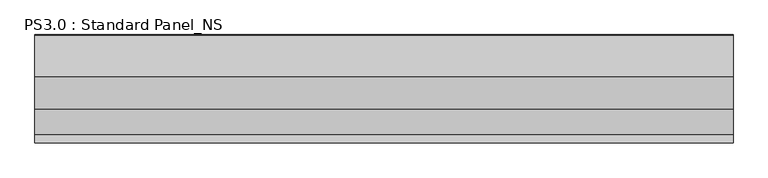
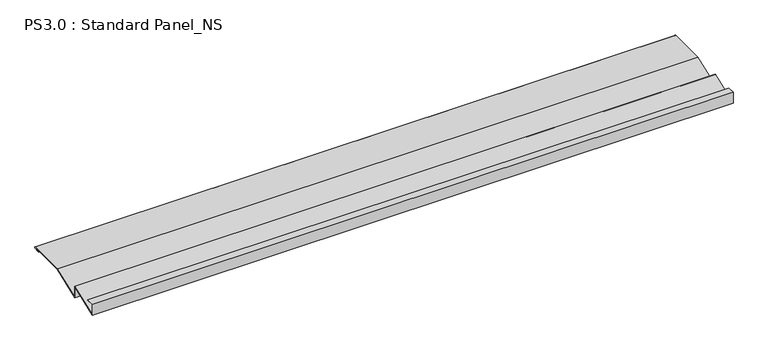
"""IFC4 building model written with IfcOpenShell, lengths in millimetres: proxy geometry, PS3.0 : Standard Panel_NS."""

from ifc_helpers import new_model, si_unit, point, frame, frame_2d, origin, place, context, project, spatial, polyline, circle_curve, trimmed, segment, composite_curve, outline, extrude, source, transform, mapped, element, save


def ps3_0_standard_panel_ns_83fd88ae(model_context):
    return source(origin(), model_context, "Body", "SweptSolid", [
        extrude(outline(composite_curve([segment(polyline([(0.0, -38.0), (0.0, 0.0), (25.0, 0.0), (25.0, -1.0), (1.0, -1.0), (1.0, -36.5502337), (101.0, 1.4497663), (101.0, -36.5502337), (199.8164044, 1.0), (325.0510156, 1.0)]), True, "CONTINUOUS"), segment(trimmed(circle_curve(frame_2d((324.3094696, -0.9153551)), 2.0538928), [point((325.0510156, 1.0))], [point((325.1748462, -2.778041))], False, "CARTESIAN"), True, "CONTINUOUS"), segment(polyline([(325.1748462, -2.778041), (308.7874714, -5.923107), (308.5989911, -4.94103), (324.8448691, -1.8231201)]), True, "CONTINUOUS"), segment(trimmed(circle_curve(frame_2d((324.3094696, -0.9153551)), 1.0538928), [point((324.8448691, -1.8231201))], [point((324.8317866, 0.0))], True, "CARTESIAN"), True, "CONTINUOUS"), segment(polyline([(324.8317866, 0.0), (200.0, 0.0), (100.0, -38.0), (100.0, 0.0), (0.0, -38.0)]), True, "CONTINUOUS")], self_intersect=False)), frame((0.0, 0.0, 0.0), z_axis=(1.0, 0.0, 0.0), x_axis=(0.0, 1.0, 0.0)), (0.0, 0.0, 1.0), 2100.0),
    ])


if __name__ == "__main__":
    model = new_model("IFC4")
    model_context = context("Model", 3, world=origin())
    ifc_project = project(units=[si_unit("LENGTHUNIT", "METRE", prefix="MILLI")], contexts=[model_context])
    site = spatial("IfcSite", under=ifc_project)
    building = spatial("IfcBuilding", under=site)
    placement = place(None, origin())
    ps3_0_standard_panel_ns_shape = ps3_0_standard_panel_ns_83fd88ae(model_context)
    element("IfcBuildingElementProxy", 1, Name="PS3.0 : Standard Panel_NS", ObjectType="PS3.0 : Standard Panel_NS", at=placement, inside=building, context=model_context, shape_type="MappedRepresentation", body=[
        mapped(ps3_0_standard_panel_ns_shape, transform((0.0, 0.0, 0.0), x_axis=(1.0, 0.0, 0.0), y_axis=(0.0, 1.0, 0.0), z_axis=(0.0, 0.0, 1.0))),
    ])
    save(model, "model.ifc")
